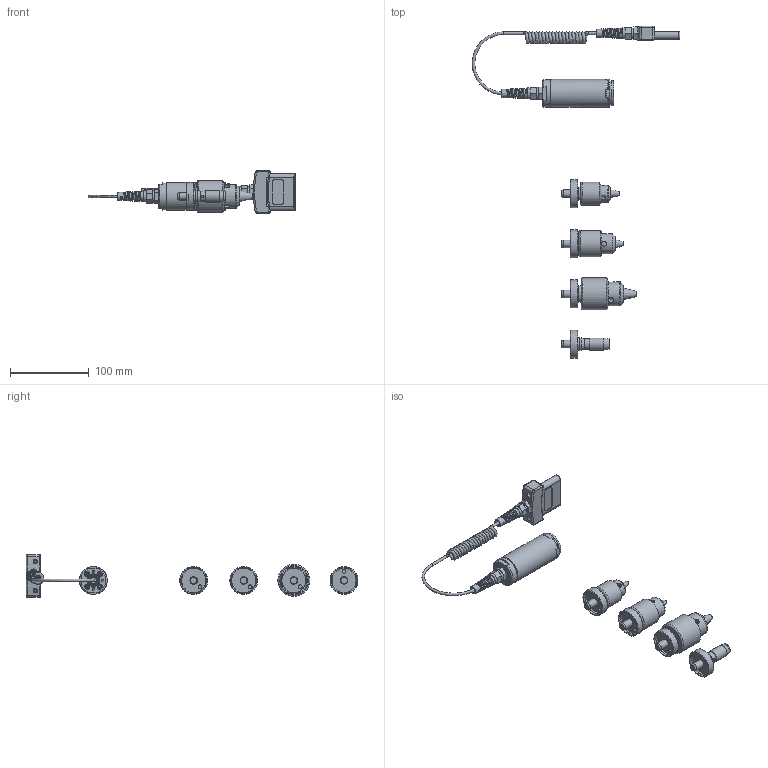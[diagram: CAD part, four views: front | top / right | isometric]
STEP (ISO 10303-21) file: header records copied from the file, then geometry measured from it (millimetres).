
FILE_DESCRIPTION((''),'2;1');
FILE_NAME('F:\CAD files\Itr\3D MARKETING MODELS\TORQUE SENSORS\MR51\MR51.stp','2017-06-20T16:59:39',('mlampen'),(''),'Autodesk Inventor 2010','Autodesk Inventor 2010','');
FILE_SCHEMA(('AUTOMOTIVE_DESIGN { 1 0 10303 214 1 1 1 1 }'));
Length unit declared in the file: inch
Products named in the file (6): Assembly1; Part2; Part4; Part6; Part8; Part10
Assembly tree (5 placements, depth 2):
  Assembly1
    Part2
    Part4
    Part6
    Part8
    Part10
Bounding box: 262.9 x 420.5 x 54.02 mm (x, y, z)
Volume: 279461.8 mm3; surface area: 84194.5 mm2
Topology: 13 solids, 13 shells, 873 faces, 2042 edges, 1307 vertices
Faces by surface type: plane 354, cylinder 190, bspline 152, cone 141, torus 32, sphere 4
Full cylindrical faces by diameter (mm): 2.068 x4, 3.175 x5, 3.429 x3, 3.505 x4, 3.81 x4, 4.648 x2, 4.763 x1, 4.826 x4, 5.74 x8, 5.842 x2, 6.096 x3, 6.198 x3, 6.35 x8, 6.947 x3, 7.62 x12, 8.89 x1, 9.512 x4, 9.525 x1, 11.176 x2, 11.43 x1, 12.7 x1, 13.208 x1, 13.462 x1, 15.164 x1, 15.24 x2, 15.875 x5, 16.002 x4, 16.51 x1, 17.78 x1, 21.336 x1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
Entity records: 36395 total; most frequent: CARTESIAN_POINT 19126, ORIENTED_EDGE 3490, DIRECTION 3102, EDGE_CURVE 1745, AXIS2_PLACEMENT_3D 1300, VERTEX_POINT 1234, EDGE_LOOP 1185, FACE_OUTER_BOUND 853
